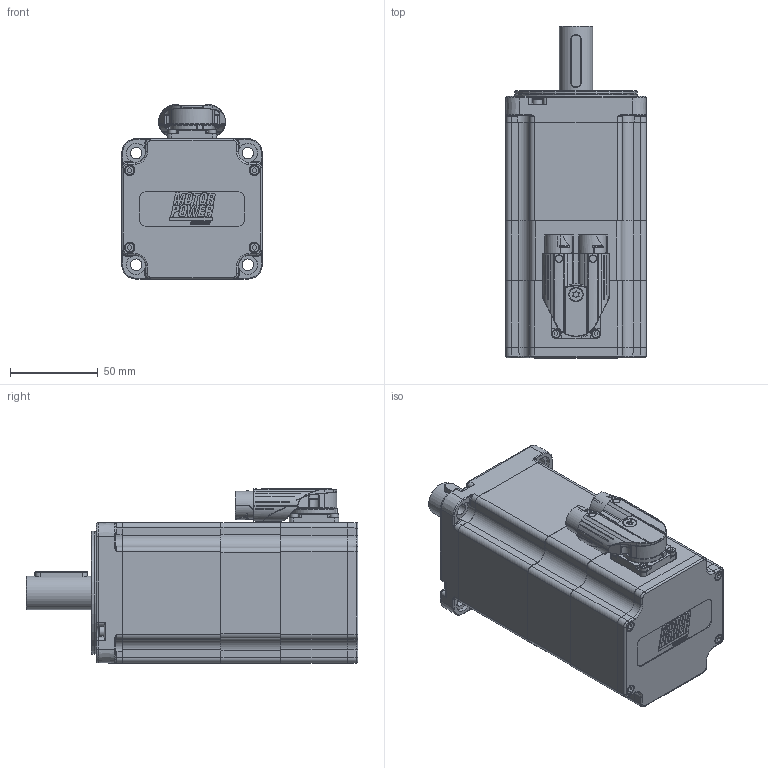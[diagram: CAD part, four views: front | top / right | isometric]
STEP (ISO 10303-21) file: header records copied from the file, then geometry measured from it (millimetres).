
FILE_DESCRIPTION(/* description */ ('Unknown'),/* implementation_level */ '2;1');
FILE_NAME(/* name */ 'TC4-80.3A.XX.X.3.M1.1.1.G11.33.80 Q0D211',/* time_stamp */ '2026-03-04T12:05:53+01:00',/* author */ ('Unknown'),/* organization */ ('Unknown'),/* preprocessor_version */ 'ST-DEVELOPER v19.4',/* originating_system */ 'Solid Edge',/* authorisation */ 'Unknown');
FILE_SCHEMA (('AUTOMOTIVE_DESIGN {1 0 10303 214 3 1 1}'));
Products named in the file (14): Q0D211 3A FRENO M1 VUOTO; 003103040223; 003155002201; 005117001560; 005119001500; 005911000192; 003107003286; 005113000500; 005911000185; 005911000202; 003251040719; 003003200450; 003151003165; 005711000130
Assembly tree (22 placements, depth 2):
  Q0D211 3A FRENO M1 VUOTO
    003103040223
    003155002201
    005117001560
    005119001500
    005911000192  x4
    003107003286
    005113000500
    005911000185  x4
    005911000202  x4
    003251040719
    003003200450
    003151003165
    005711000130
Bounding box: 80 x 189 x 99.25 mm (x, y, z)
Volume: 362307.4 mm3; surface area: 168685.9 mm2
Topology: 24 solids, 24 shells, 2738 faces, 6682 edges, 4147 vertices
Faces by surface type: plane 1016, cylinder 753, bspline 455, torus 286, cone 170, sphere 58
Full cylindrical faces by diameter (mm): 1 x21, 1.175 x12, 1.5 x1, 1.8 x5, 2 x1, 2.013 x4, 2.05 x3, 2.459 x32, 2.5 x5, 3 x8, 3.2 x6, 3.5 x14, 4 x2, 4.7 x4, 4.917 x1, 5.5 x8, 6 x6, 6.4 x1, 6.5 x4, 6.6 x4, 7 x4, 7.5 x1, 8 x1, 10 x2, 11 x4, 11.75 x1, 15 x2, 16.2 x2, 16.9 x1, 16.95 x1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
Entity records: 111457 total; most frequent: CARTESIAN_POINT 39231, ORIENTED_EDGE 11804, DIRECTION 10898, EDGE_CURVE 5902, AXIS2_PLACEMENT_3D 4238, VERTEX_POINT 3885, FACE_BOUND 3235, EDGE_LOOP 3210
